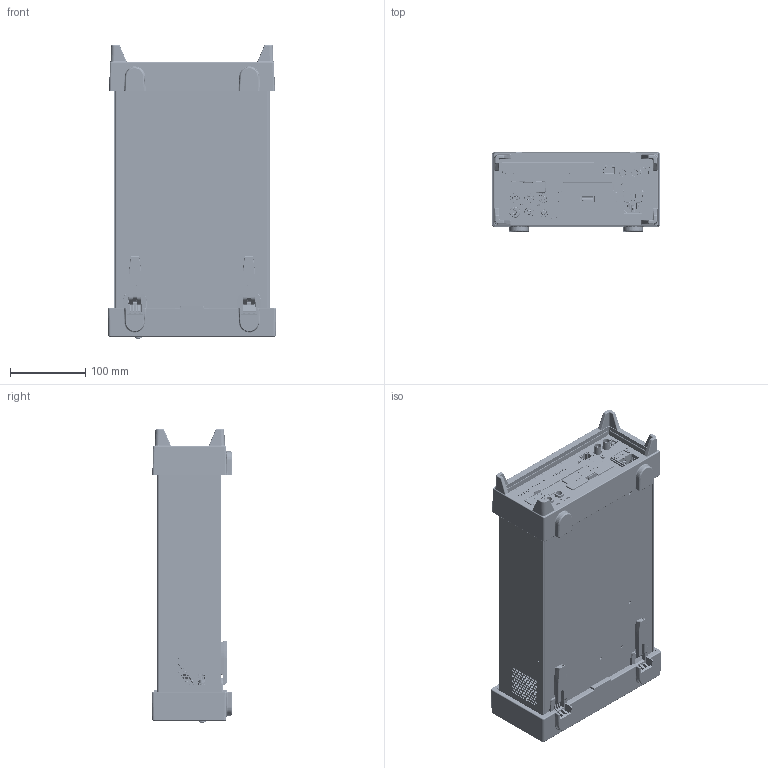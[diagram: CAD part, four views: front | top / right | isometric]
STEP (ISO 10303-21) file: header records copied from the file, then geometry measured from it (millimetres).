
FILE_DESCRIPTION((''),'2;1');
FILE_NAME('DMM6500-SALES_ASM','2018-09-14T',('dking'),('Keithley Instruments'),'CREO PARAMETRIC BY PTC INC, 2016050','CREO PARAMETRIC BY PTC INC, 2016050','');
FILE_SCHEMA(('AUTOMOTIVE_DESIGN { 1 0 10303 214 1 1 1 1 }'));
Length unit declared in the file: inch
Products named in the file (44): 3867965; PEM-CLS-632-2; CLS-440-2; CLS-632-2; FH-632-5; SO-832-16; 3867965_ASM; 3334845; BS-632-2; TM8146; 3334845_ASM; 1198903_ASM; CS-1150; 1319965; CS-1032; 4-40X1-4PFH; 3334815; 1319954; 3334815_ASM; 1198807; 2603068; TM8115; 2603072_ASM; TM8116; 2603073_ASM; 3521173; 3353860_AF0; 3353860-SALES_ASM; 3482232; 3482227; 1319492; 3841879; 2001-312; 3660926; 2005416; 2450-310; 2020558; 3867966; 4-40X5-16PPH; 6-32X3-8PPHSEM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
Assembly tree (81 placements, depth 3):
  DMM6500-SALES_ASM
    3867965_ASM
      3867965
      PEM-CLS-632-2  x6
      CLS-440-2  x7
      CLS-632-2  x2
      FH-632-5  x6
      SO-832-16  x2
    3334845_ASM
      3334845
      BS-632-2
      CLS-440-2
      TM8146
    1198903_ASM
    CS-1150
    1319965  x2
    CS-1032
    4-40X1-4PFH  x6
    3334815_ASM
      3334815
      1319954  x4
    1198807
    2603072_ASM
      2603068
      TM8115
    2603073_ASM
      2603068
      TM8116
    3521173  x3
    3353860-SALES_ASM
      3353860_AF0
    3482232  x2
    3482227
    1319492
    3841879
    2001-312  x2
    3660926
    2005416
    2450-310
    2020558
    3867966
    4-40X5-16PPH
    6-32X3-8PPHSEM
    1319918
    1319954  x5
    3868035
    3868047
Bounding box: 224.02 x 107.35 x 390.94 mm (x, y, z)
Volume: 1055200.1 mm3; surface area: 954281.9 mm2
Topology: 76 solids, 81 shells, 18614 faces, 48456 edges, 30792 vertices
Faces by surface type: plane 10720, cylinder 3750, extrusion 1512, bspline 1059, cone 735, torus 460, sphere 378
Entity records: 827054 total; most frequent: CARTESIAN_POINT 186115, ORIENTED_EDGE 88600, DIRECTION 76063, PRESENTATION_STYLE_ASSIGNMENT 55226, STYLED_ITEM 55017, EDGE_CURVE 44300, CURVE_STYLE 41891, VECTOR 33365
